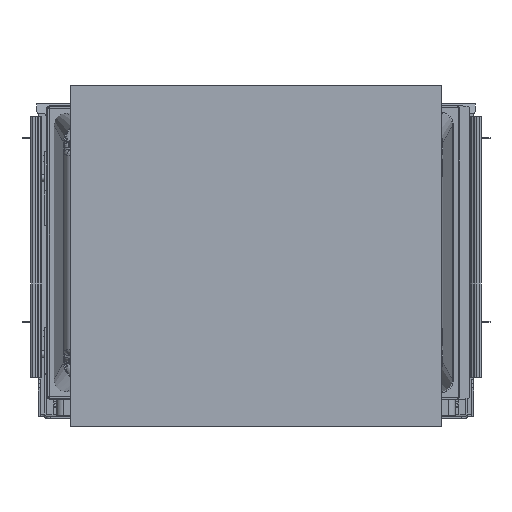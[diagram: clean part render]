
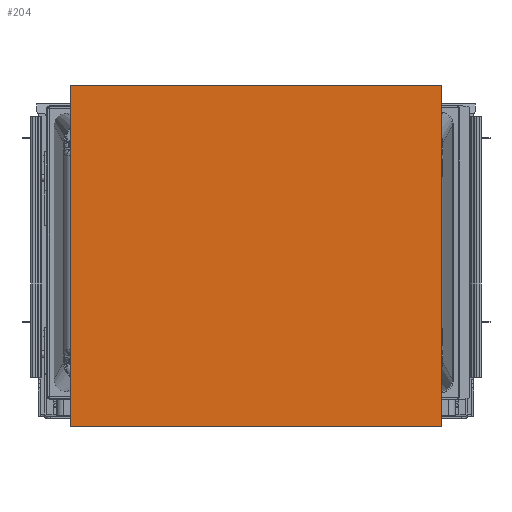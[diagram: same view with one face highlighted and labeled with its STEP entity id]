
A CAD part, front view. The second image highlights one B-rep face of the part: STEP entity #204.
In plain terms, the highlighted planar face has unit normal (0, -1, 0).
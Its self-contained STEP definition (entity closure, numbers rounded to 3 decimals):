
#62=DIRECTION('',(0.,0.,1.));
#63=VECTOR('',#62,393.);
#64=CARTESIAN_POINT('',(-213.5,-16.,-374.));
#65=LINE('',#64,#63);
#66=DIRECTION('',(-1.,0.,0.));
#67=VECTOR('',#66,427.);
#68=CARTESIAN_POINT('',(213.5,-16.,-374.));
#69=LINE('',#68,#67);
#74=DIRECTION('',(-1.,0.,0.));
#75=VECTOR('',#74,427.);
#76=CARTESIAN_POINT('',(213.5,-16.,19.));
#77=LINE('',#76,#75);
#102=DIRECTION('',(0.,0.,1.));
#103=VECTOR('',#102,393.);
#104=CARTESIAN_POINT('',(213.5,-16.,-374.));
#105=LINE('',#104,#103);
#126=CARTESIAN_POINT('',(-213.5,-16.,19.));
#127=VERTEX_POINT('',#126);
#128=CARTESIAN_POINT('',(-213.5,-16.,-374.));
#129=VERTEX_POINT('',#128);
#134=CARTESIAN_POINT('',(213.5,-16.,-374.));
#135=VERTEX_POINT('',#134);
#136=CARTESIAN_POINT('',(213.5,-16.,19.));
#137=VERTEX_POINT('',#136);
#191=CARTESIAN_POINT('',(-213.5,-16.,19.));
#192=DIRECTION('',(0.,-1.,0.));
#193=DIRECTION('',(0.,0.,-1.));
#194=AXIS2_PLACEMENT_3D('',#191,#192,#193);
#195=PLANE('',#194);
#196=ORIENTED_EDGE('',*,*,#155,.T.);
#198=ORIENTED_EDGE('',*,*,#197,.F.);
#200=ORIENTED_EDGE('',*,*,#199,.F.);
#201=ORIENTED_EDGE('',*,*,#183,.T.);
#202=EDGE_LOOP('',(#196,#198,#200,#201));
#203=FACE_OUTER_BOUND('',#202,.F.);
#155=EDGE_CURVE('',#129,#127,#65,.T.);
#183=EDGE_CURVE('',#135,#129,#69,.T.);
#197=EDGE_CURVE('',#137,#127,#77,.T.);
#199=EDGE_CURVE('',#135,#137,#105,.T.);
#204=ADVANCED_FACE('',(#203),#195,.T.);
